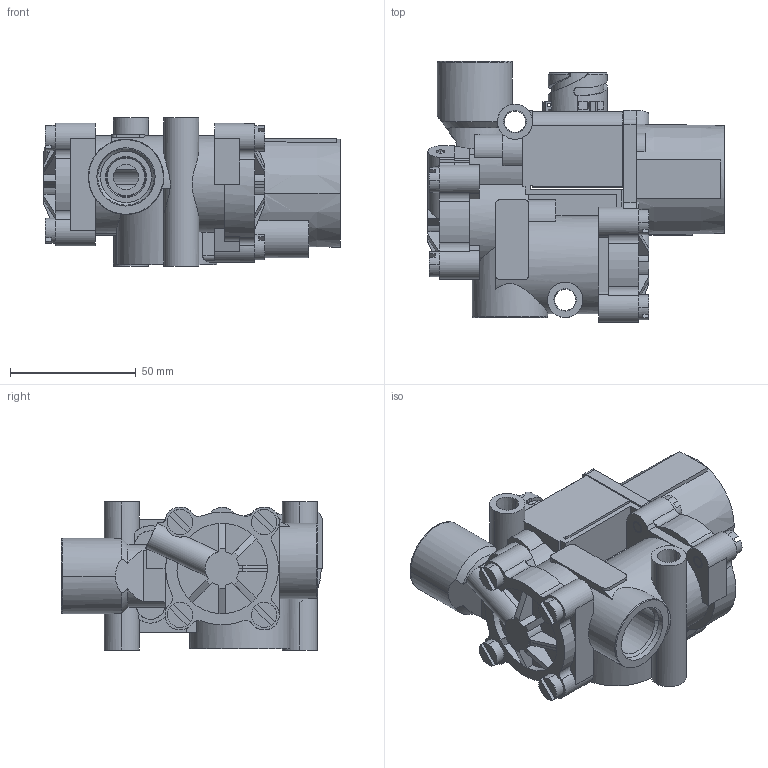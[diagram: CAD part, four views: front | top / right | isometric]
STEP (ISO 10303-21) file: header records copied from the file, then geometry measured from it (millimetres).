
FILE_DESCRIPTION((''),'2;1');
FILE_NAME('08437','2023-11-21T',('jouravsky'),(''),'PRO/ENGINEER BY PARAMETRIC TECHNOLOGY CORPORATION, 2007450','PRO/ENGINEER BY PARAMETRIC TECHNOLOGY CORPORATION, 2007450','');
FILE_SCHEMA(('CONFIG_CONTROL_DESIGN'));
Length unit declared in the file: millimetre
Products named in the file (1): 08437
Bounding box: 118 x 104 x 59 mm (x, y, z)
Volume: 182584.5 mm3; surface area: 104605 mm2
Topology: 1 solids, 13 shells, 1209 faces, 3187 edges, 2056 vertices
Faces by surface type: plane 500, cylinder 469, cone 128, torus 41, bspline 26, sphere 18, revolution 14, extrusion 13
Entity records: 40349 total; most frequent: CARTESIAN_POINT 9882, DIRECTION 6489, ORIENTED_EDGE 6346, EDGE_CURVE 3173, AXIS2_PLACEMENT_3D 2484, VERTEX_POINT 2056, VECTOR 1507, LINE 1494
